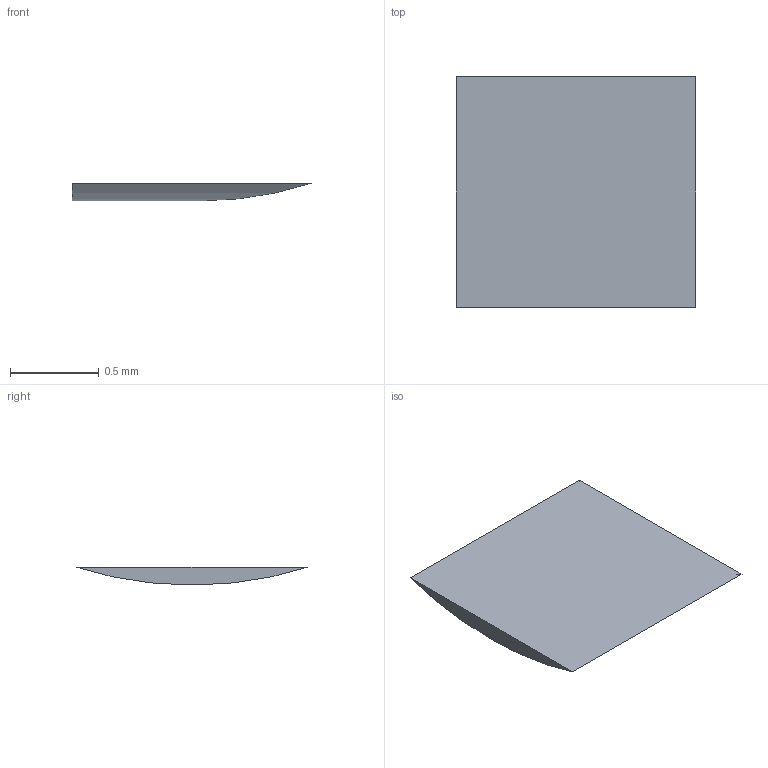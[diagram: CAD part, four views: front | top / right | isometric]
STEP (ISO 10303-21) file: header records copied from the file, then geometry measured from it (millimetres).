
FILE_DESCRIPTION(/* description */ ('STEP AP242 Edition 2','CAx-IF Rec.Pracs.---Representation and Presentation of Product Manufacturing Information (PMI)---4.0---2014-10-13','CAx-IF Rec.Pracs.---3D Tessellated Geometry---0.4---2014-09-14','2;1','CAx-IF Rec.Pracs.---User Defined Attributes---1.5---2016-08-15'),/* implementation_level */ '2;1');
FILE_NAME(/* name */ 'Drone Layout - Surface 7',/* time_stamp */ '2026-10-04T22:23:00Z',/* author */ (''),/* organization */ (''),/* preprocessor_version */ 'ST-DEVELOPER v20',/* originating_system */ 'ONSHAPE BY PTC INC, 1.221',/* authorisation */ ' ');
FILE_SCHEMA (('AP242_MANAGED_MODEL_BASED_3D_ENGINEERING_MIM_LF { 1 0 10303 442 3 1 4 }'));
Length unit declared in the file: metre
Products named in the file (1): Led:2__Pin
Bounding box: 1.35 x 1.3 x 0.1 mm (x, y, z)
Volume: 0.1 mm3; surface area: 3.6 mm2
Topology: 1 solids, 1 shells, 6 faces, 12 edges, 8 vertices
Faces by surface type: cylinder 3, plane 3
Entity records: 173 total; most frequent: CARTESIAN_POINT 33, DIRECTION 26, ORIENTED_EDGE 24, EDGE_CURVE 12, AXIS2_PLACEMENT_3D 9, LINE 8, VECTOR 8, VERTEX_POINT 8
